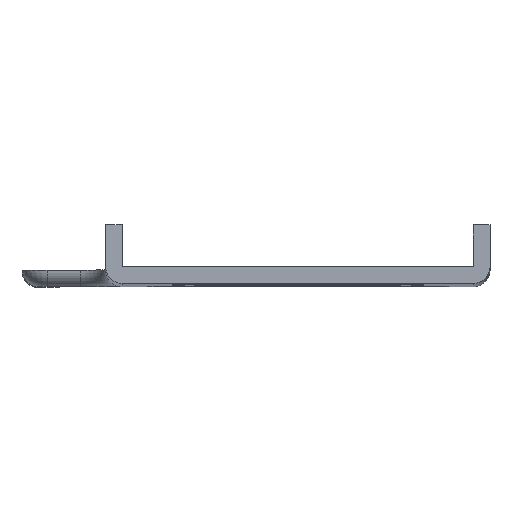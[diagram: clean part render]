
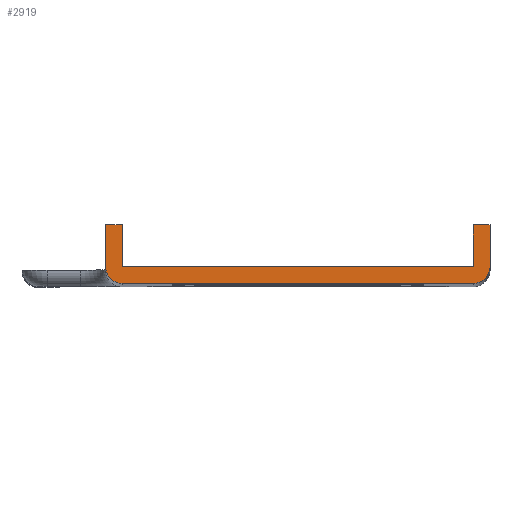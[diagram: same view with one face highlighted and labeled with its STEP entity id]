
A CAD part, top view. The second image highlights one B-rep face of the part: STEP entity #2919.
In plain terms, the highlighted planar face has unit normal (0, 0, 1).
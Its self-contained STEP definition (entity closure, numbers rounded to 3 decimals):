
#43 = AXIS2_PLACEMENT_3D ( 'NONE', #723, #1839, #965 ) ;
#49 = PLANE ( 'NONE',  #43 ) ;
#120 = EDGE_CURVE ( 'NONE', #693, #296, #2849, .T. ) ;
#149 = LINE ( 'NONE', #2660, #454 ) ;
#222 = VERTEX_POINT ( 'NONE', #1114 ) ;
#228 = ORIENTED_EDGE ( 'NONE', *, *, #616, .F. ) ;
#230 = AXIS2_PLACEMENT_3D ( 'NONE', #1218, #798, #1475 ) ;
#254 = CARTESIAN_POINT ( 'NONE',  ( 21., 2., 217. ) ) ;
#255 = CARTESIAN_POINT ( 'NONE',  ( 23., 0., 217. ) ) ;
#264 = CARTESIAN_POINT ( 'NONE',  ( -23., 2., 217. ) ) ;
#271 = FACE_OUTER_BOUND ( 'NONE', #1119, .T. ) ;
#282 = VECTOR ( 'NONE', #1863, 1000. ) ;
#296 = VERTEX_POINT ( 'NONE', #2778 ) ;
#331 = DIRECTION ( 'NONE',  ( 0., -1., 0. ) ) ;
#392 = CARTESIAN_POINT ( 'NONE',  ( 21., 0., 217. ) ) ;
#407 = VECTOR ( 'NONE', #1088, 1000. ) ;
#410 = CARTESIAN_POINT ( 'NONE',  ( -23., 0., 217. ) ) ;
#436 = CARTESIAN_POINT ( 'NONE',  ( -21., 7., 217. ) ) ;
#454 = VECTOR ( 'NONE', #597, 1000. ) ;
#466 = EDGE_CURVE ( 'NONE', #222, #2879, #2761, .T. ) ;
#467 = LINE ( 'NONE', #2187, #1183 ) ;
#486 = EDGE_CURVE ( 'NONE', #2005, #697, #467, .T. ) ;
#536 = ORIENTED_EDGE ( 'NONE', *, *, #486, .F. ) ;
#558 = VECTOR ( 'NONE', #2292, 1000. ) ;
#577 = DIRECTION ( 'NONE',  ( 0., 1., 0. ) ) ;
#597 = DIRECTION ( 'NONE',  ( 1., 0., 0. ) ) ;
#616 = EDGE_CURVE ( 'NONE', #222, #2963, #149, .T. ) ;
#676 = DIRECTION ( 'NONE',  ( 0., 0., 1. ) ) ;
#693 = VERTEX_POINT ( 'NONE', #2691 ) ;
#694 = CARTESIAN_POINT ( 'NONE',  ( 21., 7., 217. ) ) ;
#697 = VERTEX_POINT ( 'NONE', #1542 ) ;
#723 = CARTESIAN_POINT ( 'NONE',  ( -23., 0., 217. ) ) ;
#798 = DIRECTION ( 'NONE',  ( 0., 0., 1. ) ) ;
#802 = CARTESIAN_POINT ( 'NONE',  ( -23., 0., 217. ) ) ;
#804 = VECTOR ( 'NONE', #1155, 1000. ) ;
#839 = CARTESIAN_POINT ( 'NONE',  ( -21., 2., 217. ) ) ;
#866 = ORIENTED_EDGE ( 'NONE', *, *, #907, .F. ) ;
#907 = EDGE_CURVE ( 'NONE', #296, #2005, #1945, .T. ) ;
#954 = CIRCLE ( 'NONE', #2631, 2. ) ;
#965 = DIRECTION ( 'NONE',  ( 1., 0., 0. ) ) ;
#1055 = EDGE_CURVE ( 'NONE', #2167, #1522, #2180, .T. ) ;
#1088 = DIRECTION ( 'NONE',  ( 1., 0., 0. ) ) ;
#1114 = CARTESIAN_POINT ( 'NONE',  ( 21., 7., 217. ) ) ;
#1119 = EDGE_LOOP ( 'NONE', ( #2830, #2716, #2685, #228, #1349, #2985, #536, #866, #2066, #2333 ) ) ;
#1155 = DIRECTION ( 'NONE',  ( 0., -1., 0. ) ) ;
#1166 = CARTESIAN_POINT ( 'NONE',  ( 23., 7., 217. ) ) ;
#1183 = VECTOR ( 'NONE', #331, 1000. ) ;
#1217 = EDGE_CURVE ( 'NONE', #697, #2879, #2804, .T. ) ;
#1218 = CARTESIAN_POINT ( 'NONE',  ( 21., 2., 217. ) ) ;
#1349 = ORIENTED_EDGE ( 'NONE', *, *, #466, .T. ) ;
#1475 = DIRECTION ( 'NONE',  ( 1., 0., 0. ) ) ;
#1522 = VERTEX_POINT ( 'NONE', #392 ) ;
#1542 = CARTESIAN_POINT ( 'NONE',  ( -21., 2., 217. ) ) ;
#1771 = VERTEX_POINT ( 'NONE', #2590 ) ;
#1839 = DIRECTION ( 'NONE',  ( 0., 0., 1. ) ) ;
#1863 = DIRECTION ( 'NONE',  ( 0., 1., 0. ) ) ;
#1897 = VECTOR ( 'NONE', #2366, 1000. ) ;
#1945 = LINE ( 'NONE', #2158, #1897 ) ;
#2005 = VERTEX_POINT ( 'NONE', #436 ) ;
#2060 = EDGE_CURVE ( 'NONE', #1522, #1771, #2290, .T. ) ;
#2066 = ORIENTED_EDGE ( 'NONE', *, *, #120, .F. ) ;
#2105 = LINE ( 'NONE', #255, #282 ) ;
#2158 = CARTESIAN_POINT ( 'NONE',  ( -23., 7., 217. ) ) ;
#2167 = VERTEX_POINT ( 'NONE', #2205 ) ;
#2180 = LINE ( 'NONE', #410, #407 ) ;
#2187 = CARTESIAN_POINT ( 'NONE',  ( -21., 7., 217. ) ) ;
#2205 = CARTESIAN_POINT ( 'NONE',  ( -21., 0., 217. ) ) ;
#2233 = DIRECTION ( 'NONE',  ( 1., 0., 0. ) ) ;
#2290 = CIRCLE ( 'NONE', #230, 2. ) ;
#2292 = DIRECTION ( 'NONE',  ( 1., 0., 0. ) ) ;
#2320 = EDGE_CURVE ( 'NONE', #1771, #2963, #2105, .T. ) ;
#2333 = ORIENTED_EDGE ( 'NONE', *, *, #2750, .T. ) ;
#2366 = DIRECTION ( 'NONE',  ( 1., 0., 0. ) ) ;
#2590 = CARTESIAN_POINT ( 'NONE',  ( 23., 2., 217. ) ) ;
#2631 = AXIS2_PLACEMENT_3D ( 'NONE', #839, #676, #2233 ) ;
#2660 = CARTESIAN_POINT ( 'NONE',  ( 23., 7., 217. ) ) ;
#2685 = ORIENTED_EDGE ( 'NONE', *, *, #2320, .T. ) ;
#2691 = CARTESIAN_POINT ( 'NONE',  ( -23., 2., 217. ) ) ;
#2716 = ORIENTED_EDGE ( 'NONE', *, *, #2060, .T. ) ;
#2750 = EDGE_CURVE ( 'NONE', #693, #2167, #954, .T. ) ;
#2761 = LINE ( 'NONE', #694, #804 ) ;
#2778 = CARTESIAN_POINT ( 'NONE',  ( -23., 7., 217. ) ) ;
#2804 = LINE ( 'NONE', #264, #558 ) ;
#2830 = ORIENTED_EDGE ( 'NONE', *, *, #1055, .T. ) ;
#2834 = VECTOR ( 'NONE', #577, 1000. ) ;
#2849 = LINE ( 'NONE', #802, #2834 ) ;
#2879 = VERTEX_POINT ( 'NONE', #254 ) ;
#2919 = ADVANCED_FACE ( 'NONE', ( #271 ), #49, .T. ) ;
#2963 = VERTEX_POINT ( 'NONE', #1166 ) ;
#2985 = ORIENTED_EDGE ( 'NONE', *, *, #1217, .F. ) ;
